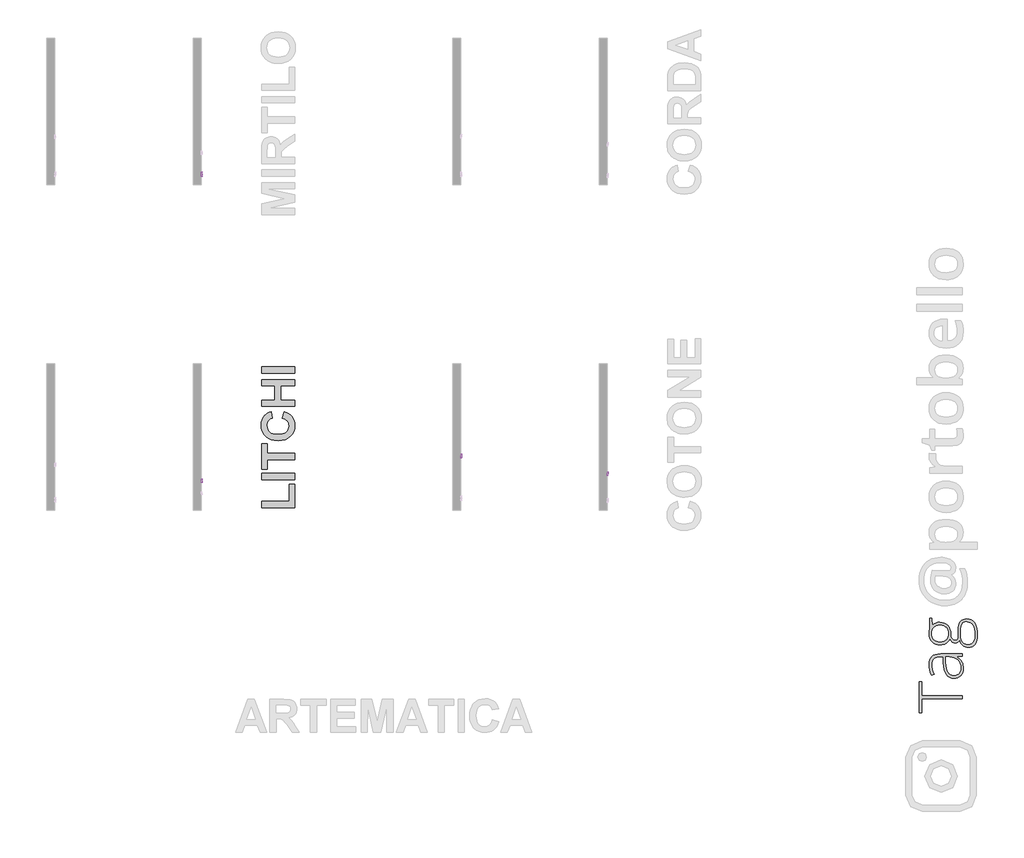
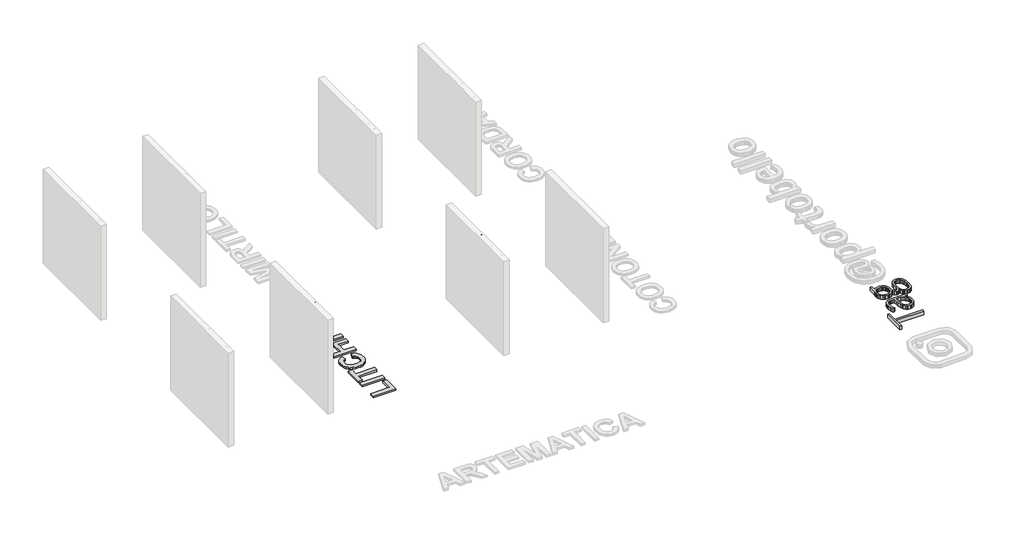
# One storey, part 4 of 9: 6 proxies.
"""IFC4 building model written with IfcOpenShell, lengths in millimetres."""

from ifc_helpers import new_model, si_unit, frame, origin, origin_with_axes, place, context, project, spatial, polyline, outline, extrude, element, save

model = new_model("IFC4")

# Units and contexts
model_context = context("Model", 3, world=origin())
ifc_project = project(units=[si_unit("LENGTHUNIT", "METRE", prefix="MILLI")], contexts=[model_context])

# Site, building, storey
site = spatial("IfcSite", under=ifc_project)
building = spatial("IfcBuilding", under=site)
storey = spatial("IfcBuildingStorey", under=building, Name="PORTOBELLO - SHOWROOM", Elevation=0.0)

# Proxies
placement = place(None, origin())
element("IfcBuildingElementProxy", 1, Name="10mm Arial", ObjectType="10mm Arial", at=placement, inside=storey, context=model_context, shape_type="SweptSolid", body=[
    extrude(outline(polyline([(-7966.9125979, 2558.2946645), (-7966.9125979, 2658.7509746), (-7929.68294, 2658.7509746), (-7914.6733546, 2657.7944814), (-7902.4719351, 2653.0978546), (-7894.5624722, 2643.3857699), (-7891.5703653, 2629.688297), (-7893.5906506, 2617.8486281), (-7899.6515065, 2607.9832593), (-7910.9853376, 2601.3245952), (-7928.8245487, 2599.1050405), (-7954.3555592, 2599.1050405), (-7954.3555592, 2558.2946645), (-7966.9125979, 2558.2946645)]), holes=[polyline([(-7954.3555592, 2611.6620792), (-7928.0887847, 2611.6620792), (-7909.5965831, 2616.2728669), (-7905.4946988, 2621.8217537), (-7904.1274041, 2629.2468386), (-7907.3525029, 2639.6456363), (-7915.8260515, 2645.3355445), (-7928.3830903, 2646.1939358), (-7954.3555592, 2646.1939358), (-7954.3555592, 2611.6620792)])]), frame((7985.6593854, 0.0, 0.0), z_axis=(1.0, 0.0, 0.0), x_axis=(0.0, 1.0, 0.0)), (0.0, 0.0, 1.0), 20.0),
    extrude(outline(polyline([(-7879.0133266, 2595.1809658), (-7876.2971312, 2612.9680603), (-7868.148545, 2625.4699168), (-7858.080841, 2631.595152), (-7846.0265743, 2633.6368971), (-7832.8349391, 2631.1506279), (-7822.2981856, 2623.6918205), (-7815.3912012, 2611.8490859), (-7813.088873, 2596.2110354), (-7817.1601004, 2573.8683356), (-7829.0181634, 2561.2254577), (-7846.0265743, 2556.7250346), (-7859.3776251, 2559.2021067), (-7869.9021158, 2566.633323), (-7876.7355239, 2578.7243779), (-7879.0133266, 2595.1809658)]), holes=[polyline([(-7866.4562878, 2595.2054913), (-7865.0031539, 2583.8410033), (-7860.6437523, 2575.7445338), (-7854.08319, 2570.8976885), (-7846.0265743, 2569.2820734), (-7838.0067468, 2570.9068855), (-7831.4584473, 2575.781322), (-7827.0990457, 2583.9850905), (-7825.6459118, 2595.5978988), (-7827.1082427, 2606.6312929), (-7831.4952355, 2614.6173979), (-7838.0527321, 2619.4642432), (-7846.0265743, 2621.0798583), (-7854.08319, 2619.4703746), (-7860.6437523, 2614.6419234), (-7865.0031539, 2606.5638479), (-7866.4562878, 2595.2054913)])]), frame((7985.6593854, 0.0, 0.0), z_axis=(1.0, 0.0, 0.0), x_axis=(0.0, 1.0, 0.0)), (0.0, 0.0, 1.0), 20.0),
    extrude(outline(polyline([(-7798.9622044, 2558.2946645), (-7798.9622044, 2632.0672672), (-7787.9747955, 2632.0672672), (-7787.9747955, 2621.1534347), (-7780.1756972, 2631.2088759), (-7772.327548, 2633.6368971), (-7759.7214583, 2629.7618734), (-7763.915313, 2618.5046843), (-7772.7444809, 2621.0798583), (-7779.8446034, 2618.6027862), (-7784.3695519, 2611.7356556), (-7786.4051656, 2597.0694267), (-7786.4051656, 2558.2946645), (-7798.9622044, 2558.2946645)])), frame((7985.6593854, 0.0, 0.0), z_axis=(1.0, 0.0, 0.0), x_axis=(0.0, 1.0, 0.0)), (0.0, 0.0, 1.0), 20.0),
    extrude(outline(polyline([(-7725.1896016, 2568.7670386), (-7723.6199718, 2557.9267825), (-7733.0132254, 2556.7250346), (-7743.5346505, 2558.8096992), (-7748.7831003, 2564.2788782), (-7750.3036792, 2578.5281742), (-7750.3036792, 2619.5102285), (-7759.7214583, 2619.5102285), (-7759.7214583, 2629.7618734), (-7759.7214583, 2632.0672672), (-7750.3036792, 2632.0672672), (-7750.3036792, 2649.9953831), (-7737.7466404, 2657.3775485), (-7737.7466404, 2632.0672672), (-7725.1896016, 2632.0672672), (-7725.1896016, 2619.5102285), (-7737.7466404, 2619.5102285), (-7737.7466404, 2578.8960562), (-7737.0844528, 2572.4213331), (-7734.9384745, 2570.128202), (-7730.6587806, 2569.2820734), (-7725.1896016, 2568.7670386)])), frame((7985.6593854, 0.0, 0.0), z_axis=(1.0, 0.0, 0.0), x_axis=(0.0, 1.0, 0.0)), (0.0, 0.0, 1.0), 20.0),
    extrude(outline(polyline([(-7715.7718226, 2595.1809658), (-7713.0556272, 2612.9680603), (-7704.907041, 2625.4699168), (-7694.839337, 2631.595152), (-7682.7850703, 2633.6368971), (-7669.5934351, 2631.1506279), (-7659.0566816, 2623.6918205), (-7652.1496972, 2611.8490859), (-7649.847369, 2596.2110354), (-7653.9185964, 2573.8683356), (-7665.7766594, 2561.2254577), (-7682.7850703, 2556.7250346), (-7696.1361211, 2559.2021067), (-7706.6606118, 2566.633323), (-7713.4940199, 2578.7243779), (-7715.7718226, 2595.1809658)]), holes=[polyline([(-7703.2147838, 2595.2054913), (-7701.7616499, 2583.8410033), (-7697.4022483, 2575.7445338), (-7690.841686, 2570.8976885), (-7682.7850703, 2569.2820734), (-7674.7652428, 2570.9068855), (-7668.2169433, 2575.781322), (-7663.8575417, 2583.9850905), (-7662.4044078, 2595.5978988), (-7663.8667387, 2606.6312929), (-7668.2537315, 2614.6173979), (-7674.8112281, 2619.4642432), (-7682.7850703, 2621.0798583), (-7690.841686, 2619.4703746), (-7697.4022483, 2614.6419234), (-7701.7616499, 2606.5638479), (-7703.2147838, 2595.2054913)])]), frame((7985.6593854, 0.0, 0.0), z_axis=(1.0, 0.0, 0.0), x_axis=(0.0, 1.0, 0.0)), (0.0, 0.0, 1.0), 20.0),
    extrude(outline(polyline([(-7623.1636616, 2558.2946645), (-7635.7207004, 2558.2946645), (-7635.7207004, 2658.7509746), (-7623.1636616, 2658.7509746), (-7623.1636616, 2621.4967912), (-7614.371282, 2630.6018706), (-7603.4451867, 2633.6368971), (-7590.8636225, 2630.9023076), (-7581.1024869, 2623.2135739), (-7575.1060103, 2611.257409), (-7572.9355066, 2596.2846118), (-7575.1826524, 2579.5214556), (-7581.92409, 2567.0502559), (-7591.81705, 2559.3063399), (-7603.5187631, 2556.7250346), (-7614.6839817, 2560.0543667), (-7623.1636616, 2570.0423628), (-7623.1636616, 2558.2946645)]), holes=[polyline([(-7623.1636616, 2595.6960006), (-7619.7300964, 2578.1357667), (-7613.15114, 2571.4954967), (-7604.5978836, 2569.2820734), (-7597.3506083, 2570.9130169), (-7591.1579281, 2575.8058474), (-7586.908891, 2583.9299082), (-7585.4925453, 2595.2545422), (-7586.850643, 2606.7447232), (-7590.9249361, 2614.7768134), (-7596.9244783, 2619.5040971), (-7604.0583234, 2621.0798583), (-7611.3055987, 2619.4489148), (-7617.4982789, 2614.5560843), (-7621.747316, 2606.5791763), (-7623.1636616, 2595.6960006)])]), frame((7985.6593854, 0.0, 0.0), z_axis=(1.0, 0.0, 0.0), x_axis=(0.0, 1.0, 0.0)), (0.0, 0.0, 1.0), 20.0),
    extrude(outline(polyline([(-7507.1582058, 2580.2694823), (-7494.8464217, 2578.6998525), (-7499.2824655, 2569.4230948), (-7506.3611282, 2562.4885192), (-7515.9229944, 2558.1659058), (-7527.8086485, 2556.7250346), (-7542.5423224, 2559.2113038), (-7553.8792192, 2566.6701112), (-7561.1081004, 2578.617079), (-7563.5177275, 2594.5678292), (-7561.083575, 2611.0550739), (-7553.7811174, 2623.3852521), (-7542.5975047, 2631.0739858), (-7528.519887, 2633.6368971), (-7514.8806621, 2631.0801172), (-7503.9821579, 2623.4097776), (-7496.8360502, 2611.1041249), (-7494.4540143, 2594.6414056), (-7494.5275907, 2591.2568912), (-7550.9606887, 2591.2568912), (-7548.7871193, 2581.8575062), (-7543.7379389, 2574.9474561), (-7536.4508097, 2570.6984191), (-7527.5633938, 2569.2820734), (-7515.2516097, 2571.9062983), (-7507.1582058, 2580.2694823)]), holes=[polyline([(-7550.9606887, 2603.81393), (-7507.011053, 2603.81393), (-7512.0387736, 2615.1937464), (-7519.3596253, 2619.6083303), (-7528.568938, 2621.0798583), (-7544.0322445, 2616.3832315), (-7548.8974839, 2610.8925927), (-7550.9606887, 2603.81393)])]), frame((7985.6593854, 0.0, 0.0), z_axis=(1.0, 0.0, 0.0), x_axis=(0.0, 1.0, 0.0)), (0.0, 0.0, 1.0), 20.0),
    extrude(outline(polyline([(8005.6593854, -7469.3399367), (8005.6593854, -7481.8969755), (7985.6593854, -7481.8969755), (7985.6593854, -7469.3399367), (8005.6593854, -7469.3399367)])), frame((0.0, 0.0, 2558.2946645), z_axis=(0.0, 0.0, 1.0), x_axis=(1.0, 0.0, 0.0)), (0.0, 0.0, 1.0), 100.4563101),
    extrude(outline(polyline([(8005.6593854, -7437.9473398), (8005.6593854, -7450.5043786), (7985.6593854, -7450.5043786), (7985.6593854, -7437.9473398), (8005.6593854, -7437.9473398)])), frame((0.0, 0.0, 2558.2946645), z_axis=(0.0, 0.0, 1.0), x_axis=(1.0, 0.0, 0.0)), (0.0, 0.0, 1.0), 100.4563101),
    extrude(outline(polyline([(-7422.2510414, 2595.1809658), (-7419.534846, 2612.9680603), (-7411.3862598, 2625.4699168), (-7401.3185558, 2631.595152), (-7389.2642891, 2633.6368971), (-7376.0726539, 2631.1506279), (-7365.5359004, 2623.6918205), (-7358.628916, 2611.8490859), (-7356.3265878, 2596.2110354), (-7360.3978152, 2573.8683356), (-7372.2558782, 2561.2254577), (-7389.2642891, 2556.7250346), (-7402.6153399, 2559.2021067), (-7413.1398306, 2566.633323), (-7419.9732387, 2578.7243779), (-7422.2510414, 2595.1809658)]), holes=[polyline([(-7409.6940026, 2595.2054913), (-7408.2408687, 2583.8410033), (-7403.8814671, 2575.7445338), (-7397.3209048, 2570.8976885), (-7389.2642891, 2569.2820734), (-7381.2444616, 2570.9068855), (-7374.6961621, 2575.781322), (-7370.3367605, 2583.9850905), (-7368.8836266, 2595.5978988), (-7370.3459575, 2606.6312929), (-7374.7329503, 2614.6173979), (-7381.2904469, 2619.4642432), (-7389.2642891, 2621.0798583), (-7397.3209048, 2619.4703746), (-7403.8814671, 2614.6419234), (-7408.2408687, 2606.5638479), (-7409.6940026, 2595.2054913)])]), frame((7985.6593854, 0.0, 0.0), z_axis=(1.0, 0.0, 0.0), x_axis=(0.0, 1.0, 0.0)), (0.0, 0.0, 1.0), 20.0),
])
element("IfcBuildingElementProxy", 2, Name="10mm Arial", ObjectType="10mm Arial", at=placement, inside=storey, context=model_context, shape_type="SweptSolid", body=[
    extrude(outline(polyline([(-8097.4526285, 2555.2578696), (-8097.4526285, 2655.7141797), (-8060.2229706, 2655.7141797), (-8045.2133852, 2654.7576865), (-8033.0119657, 2650.0610597), (-8025.1025028, 2640.3489751), (-8022.1103959, 2626.6515021), (-8024.1306812, 2614.8118332), (-8030.191537, 2604.9464644), (-8041.5253682, 2598.2878003), (-8059.3645792, 2596.0682456), (-8084.8955897, 2596.0682456), (-8084.8955897, 2555.2578696), (-8097.4526285, 2555.2578696)]), holes=[polyline([(-8084.8955897, 2608.6252844), (-8058.6288152, 2608.6252844), (-8040.1366136, 2613.236072), (-8036.0347294, 2618.7849588), (-8034.6674346, 2626.2100437), (-8037.8925335, 2636.6088415), (-8046.3660821, 2642.2987496), (-8058.9231208, 2643.157141), (-8084.8955897, 2643.157141), (-8084.8955897, 2608.6252844)])]), frame((499.3339478, 0.0, 0.0), z_axis=(1.0, 0.0, 0.0), x_axis=(0.0, 1.0, 0.0)), (0.0, 0.0, 1.0), 20.0),
    extrude(outline(polyline([(-8009.5533571, 2592.144171), (-8006.8371617, 2609.9312654), (-7998.6885755, 2622.4331219), (-7988.6208716, 2628.5583571), (-7976.5666049, 2630.6001022), (-7963.3749696, 2628.113833), (-7952.8382162, 2620.6550256), (-7945.9312317, 2608.812291), (-7943.6289036, 2593.1742406), (-7947.700131, 2570.8315407), (-7959.5581939, 2558.1886628), (-7976.5666049, 2553.6882397), (-7989.9176556, 2556.1653118), (-8000.4421463, 2563.5965281), (-8007.2755544, 2575.6875831), (-8009.5533571, 2592.144171)]), holes=[polyline([(-7996.9963183, 2592.1686964), (-7995.5431844, 2580.8042085), (-7991.1837828, 2572.7077389), (-7984.6232206, 2567.8608936), (-7976.5666049, 2566.2452785), (-7968.5467774, 2567.8700907), (-7961.9984778, 2572.7445271), (-7957.6390762, 2580.9482956), (-7956.1859423, 2592.5611039), (-7957.6482733, 2603.5944981), (-7962.035266, 2611.580603), (-7968.5927626, 2616.4274483), (-7976.5666049, 2618.0430634), (-7984.6232206, 2616.4335797), (-7991.1837828, 2611.6051285), (-7995.5431844, 2603.527053), (-7996.9963183, 2592.1686964)])]), frame((499.3339478, 0.0, 0.0), z_axis=(1.0, 0.0, 0.0), x_axis=(0.0, 1.0, 0.0)), (0.0, 0.0, 1.0), 20.0),
    extrude(outline(polyline([(-7929.5022349, 2555.2578696), (-7929.5022349, 2629.0304724), (-7918.514826, 2629.0304724), (-7918.514826, 2618.1166398), (-7910.7157277, 2628.172081), (-7902.8675785, 2630.6001022), (-7890.2614888, 2626.7250785), (-7894.4553435, 2615.4678895), (-7903.2845114, 2618.0430634), (-7910.3846339, 2615.5659913), (-7914.9095825, 2608.6988608), (-7916.9451962, 2594.0326319), (-7916.9451962, 2555.2578696), (-7929.5022349, 2555.2578696)])), frame((499.3339478, 0.0, 0.0), z_axis=(1.0, 0.0, 0.0), x_axis=(0.0, 1.0, 0.0)), (0.0, 0.0, 1.0), 20.0),
    extrude(outline(polyline([(-7855.7296322, 2565.7302437), (-7854.1600023, 2554.8899876), (-7863.5532559, 2553.6882397), (-7874.074681, 2555.7729044), (-7879.3231308, 2561.2420834), (-7880.8437097, 2575.4913793), (-7880.8437097, 2616.4734336), (-7890.2614888, 2616.4734336), (-7890.2614888, 2626.7250785), (-7890.2614888, 2629.0304724), (-7880.8437097, 2629.0304724), (-7880.8437097, 2646.9585882), (-7868.2866709, 2654.3407536), (-7868.2866709, 2629.0304724), (-7855.7296322, 2629.0304724), (-7855.7296322, 2616.4734336), (-7868.2866709, 2616.4734336), (-7868.2866709, 2575.8592613), (-7867.6244834, 2569.3845382), (-7865.478505, 2567.0914071), (-7861.1988112, 2566.2452785), (-7855.7296322, 2565.7302437)])), frame((499.3339478, 0.0, 0.0), z_axis=(1.0, 0.0, 0.0), x_axis=(0.0, 1.0, 0.0)), (0.0, 0.0, 1.0), 20.0),
    extrude(outline(polyline([(-7846.3118531, 2592.144171), (-7843.5956577, 2609.9312654), (-7835.4470715, 2622.4331219), (-7825.3793676, 2628.5583571), (-7813.3251009, 2630.6001022), (-7800.1334657, 2628.113833), (-7789.5967122, 2620.6550256), (-7782.6897277, 2608.812291), (-7780.3873996, 2593.1742406), (-7784.458627, 2570.8315407), (-7796.31669, 2558.1886628), (-7813.3251009, 2553.6882397), (-7826.6761516, 2556.1653118), (-7837.2006424, 2563.5965281), (-7844.0340504, 2575.6875831), (-7846.3118531, 2592.144171)]), holes=[polyline([(-7833.7548143, 2592.1686964), (-7832.3016804, 2580.8042085), (-7827.9422788, 2572.7077389), (-7821.3817166, 2567.8608936), (-7813.3251009, 2566.2452785), (-7805.3052734, 2567.8700907), (-7798.7569739, 2572.7445271), (-7794.3975722, 2580.9482956), (-7792.9444383, 2592.5611039), (-7794.4067693, 2603.5944981), (-7798.7937621, 2611.580603), (-7805.3512586, 2616.4274483), (-7813.3251009, 2618.0430634), (-7821.3817166, 2616.4335797), (-7827.9422788, 2611.6051285), (-7832.3016804, 2603.527053), (-7833.7548143, 2592.1686964)])]), frame((499.3339478, 0.0, 0.0), z_axis=(1.0, 0.0, 0.0), x_axis=(0.0, 1.0, 0.0)), (0.0, 0.0, 1.0), 20.0),
    extrude(outline(polyline([(-7753.7036922, 2555.2578696), (-7766.2607309, 2555.2578696), (-7766.2607309, 2655.7141797), (-7753.7036922, 2655.7141797), (-7753.7036922, 2618.4599964), (-7744.9113125, 2627.5650757), (-7733.9852172, 2630.6001022), (-7721.403653, 2627.8655127), (-7711.6425174, 2620.176779), (-7705.6460409, 2608.2206142), (-7703.4755371, 2593.247817), (-7705.722683, 2576.4846607), (-7712.4641205, 2564.0134611), (-7722.3570805, 2556.2695451), (-7734.0587936, 2553.6882397), (-7745.2240122, 2557.0175718), (-7753.7036922, 2567.005568), (-7753.7036922, 2555.2578696)]), holes=[polyline([(-7753.7036922, 2592.6592058), (-7750.2701269, 2575.0989719), (-7743.6911705, 2568.4587018), (-7735.1379142, 2566.2452785), (-7727.8906389, 2567.876222), (-7721.6979586, 2572.7690526), (-7717.4489216, 2580.8931133), (-7716.0325759, 2592.2177474), (-7717.3906736, 2603.7079283), (-7721.4649667, 2611.7400186), (-7727.4645089, 2616.4673022), (-7734.5983539, 2618.0430634), (-7741.8456292, 2616.4121199), (-7748.0383095, 2611.5192894), (-7752.2873465, 2603.5423815), (-7753.7036922, 2592.6592058)])]), frame((499.3339478, 0.0, 0.0), z_axis=(1.0, 0.0, 0.0), x_axis=(0.0, 1.0, 0.0)), (0.0, 0.0, 1.0), 20.0),
    extrude(outline(polyline([(-7637.6982364, 2577.2326874), (-7625.3864523, 2575.6630576), (-7629.822496, 2566.3862999), (-7636.9011587, 2559.4517243), (-7646.4630249, 2555.1291109), (-7658.348679, 2553.6882397), (-7673.0823529, 2556.1745089), (-7684.4192498, 2563.6333163), (-7691.648131, 2575.5802841), (-7694.057758, 2591.5310343), (-7691.6236055, 2608.0182791), (-7684.3211479, 2620.3484573), (-7673.1375352, 2628.037191), (-7659.0599176, 2630.6001022), (-7645.4206926, 2628.0433223), (-7634.5221885, 2620.3729827), (-7627.3760807, 2608.06733), (-7624.9940448, 2591.6046107), (-7625.0676212, 2588.2200964), (-7681.5007193, 2588.2200964), (-7679.3271498, 2578.8207114), (-7674.2779694, 2571.9106612), (-7666.9908402, 2567.6616242), (-7658.1034244, 2566.2452785), (-7645.7916403, 2568.8695034), (-7637.6982364, 2577.2326874)]), holes=[polyline([(-7681.5007193, 2600.7771351), (-7637.5510836, 2600.7771351), (-7642.5788042, 2612.1569515), (-7649.8996559, 2616.5715354), (-7659.1089685, 2618.0430634), (-7674.572275, 2613.3464366), (-7679.4375144, 2607.8557978), (-7681.5007193, 2600.7771351)])]), frame((499.3339478, 0.0, 0.0), z_axis=(1.0, 0.0, 0.0), x_axis=(0.0, 1.0, 0.0)), (0.0, 0.0, 1.0), 20.0),
    extrude(outline(polyline([(519.3339478, -7599.8799673), (519.3339478, -7612.437006), (499.3339478, -7612.437006), (499.3339478, -7599.8799673), (519.3339478, -7599.8799673)])), frame((0.0, 0.0, 2555.2578696), z_axis=(0.0, 0.0, 1.0), x_axis=(1.0, 0.0, 0.0)), (0.0, 0.0, 1.0), 100.4563101),
    extrude(outline(polyline([(519.3339478, -7568.4873703), (519.3339478, -7581.0444091), (499.3339478, -7581.0444091), (499.3339478, -7568.4873703), (519.3339478, -7568.4873703)])), frame((0.0, 0.0, 2555.2578696), z_axis=(0.0, 0.0, 1.0), x_axis=(1.0, 0.0, 0.0)), (0.0, 0.0, 1.0), 100.4563101),
    extrude(outline(polyline([(-7552.7910719, 2592.144171), (-7550.0748765, 2609.9312654), (-7541.9262903, 2622.4331219), (-7531.8585864, 2628.5583571), (-7519.8043196, 2630.6001022), (-7506.6126844, 2628.113833), (-7496.075931, 2620.6550256), (-7489.1689465, 2608.812291), (-7486.8666183, 2593.1742406), (-7490.9378458, 2570.8315407), (-7502.7959087, 2558.1886628), (-7519.8043196, 2553.6882397), (-7533.1553704, 2556.1653118), (-7543.6798611, 2563.5965281), (-7550.5132692, 2575.6875831), (-7552.7910719, 2592.144171)]), holes=[polyline([(-7540.2340331, 2592.1686964), (-7538.7808992, 2580.8042085), (-7534.4214976, 2572.7077389), (-7527.8609353, 2567.8608936), (-7519.8043196, 2566.2452785), (-7511.7844922, 2567.8700907), (-7505.2361926, 2572.7445271), (-7500.876791, 2580.9482956), (-7499.4236571, 2592.5611039), (-7500.885988, 2603.5944981), (-7505.2729808, 2611.580603), (-7511.8304774, 2616.4274483), (-7519.8043196, 2618.0430634), (-7527.8609353, 2616.4335797), (-7534.4214976, 2611.6051285), (-7538.7808992, 2603.527053), (-7540.2340331, 2592.1686964)])]), frame((499.3339478, 0.0, 0.0), z_axis=(1.0, 0.0, 0.0), x_axis=(0.0, 1.0, 0.0)), (0.0, 0.0, 1.0), 20.0),
])
element("IfcBuildingElementProxy", 3, Name="10mm Arial", ObjectType="10mm Arial", at=placement, inside=storey, context=model_context, shape_type="SweptSolid", body=[
    extrude(outline(polyline([(-2456.1613863, 2558.4095218), (-2456.1613863, 2658.8658319), (-2434.5544504, 2658.8658319), (-2414.0021096, 2588.0608106), (-2409.8573058, 2573.2719544), (-2405.3691455, 2589.2870839), (-2385.1601612, 2658.8658319), (-2363.5532254, 2658.8658319), (-2363.5532254, 2558.4095218), (-2376.1102641, 2558.4095218), (-2376.1102641, 2646.3087932), (-2401.346969, 2558.4095218), (-2418.3676426, 2558.4095218), (-2443.6043475, 2646.3087932), (-2443.6043475, 2558.4095218), (-2456.1613863, 2558.4095218)])), frame((499.3339478, 0.0, 0.0), z_axis=(1.0, 0.0, 0.0), x_axis=(0.0, 1.0, 0.0)), (0.0, 0.0, 1.0), 20.0),
    extrude(outline(polyline([(519.3339478, -2330.5909986), (519.3339478, -2343.1480374), (499.3339478, -2343.1480374), (499.3339478, -2330.5909986), (519.3339478, -2330.5909986)])), frame((0.0, 0.0, 2646.3087932), z_axis=(0.0, 0.0, 1.0), x_axis=(1.0, 0.0, 0.0)), (0.0, 0.0, 1.0), 12.5570388),
    extrude(outline(polyline([(519.3339478, -2330.5909986), (519.3339478, -2343.1480374), (499.3339478, -2343.1480374), (499.3339478, -2330.5909986), (519.3339478, -2330.5909986)])), frame((0.0, 0.0, 2558.4095218), z_axis=(0.0, 0.0, 1.0), x_axis=(1.0, 0.0, 0.0)), (0.0, 0.0, 1.0), 73.7726028),
    extrude(outline(polyline([(-2311.7554404, 2558.4095218), (-2311.7554404, 2632.1821246), (-2300.7680315, 2632.1821246), (-2300.7680315, 2621.268292), (-2292.9689332, 2631.3237332), (-2285.120784, 2633.7517544), (-2272.5146943, 2629.8767307), (-2276.708549, 2618.6195417), (-2285.5377169, 2621.1947156), (-2292.6378394, 2618.7176435), (-2297.162788, 2611.850513), (-2299.1984017, 2597.1842841), (-2299.1984017, 2558.4095218), (-2311.7554404, 2558.4095218)])), frame((499.3339478, 0.0, 0.0), z_axis=(1.0, 0.0, 0.0), x_axis=(0.0, 1.0, 0.0)), (0.0, 0.0, 1.0), 20.0),
    extrude(outline(polyline([(-2237.9828377, 2568.8818959), (-2236.4132078, 2558.0416398), (-2245.8064614, 2556.8398919), (-2256.3278865, 2558.9245566), (-2261.5763363, 2564.3937356), (-2263.0969152, 2578.6430315), (-2263.0969152, 2619.6250858), (-2272.5146943, 2619.6250858), (-2272.5146943, 2629.8767307), (-2272.5146943, 2632.1821246), (-2263.0969152, 2632.1821246), (-2263.0969152, 2650.1102405), (-2250.5398764, 2657.4924058), (-2250.5398764, 2632.1821246), (-2237.9828377, 2632.1821246), (-2237.9828377, 2619.6250858), (-2250.5398764, 2619.6250858), (-2250.5398764, 2579.0109135), (-2249.8776888, 2572.5361904), (-2247.7317105, 2570.2430593), (-2243.4520167, 2569.3969307), (-2237.9828377, 2568.8818959)])), frame((499.3339478, 0.0, 0.0), z_axis=(1.0, 0.0, 0.0), x_axis=(0.0, 1.0, 0.0)), (0.0, 0.0, 1.0), 20.0),
    extrude(outline(polyline([(519.3339478, -2212.8687601), (519.3339478, -2225.4257989), (499.3339478, -2225.4257989), (499.3339478, -2212.8687601), (519.3339478, -2212.8687601)])), frame((0.0, 0.0, 2646.3087932), z_axis=(0.0, 0.0, 1.0), x_axis=(1.0, 0.0, 0.0)), (0.0, 0.0, 1.0), 12.5570388),
    extrude(outline(polyline([(519.3339478, -2212.8687601), (519.3339478, -2225.4257989), (499.3339478, -2225.4257989), (499.3339478, -2212.8687601), (519.3339478, -2212.8687601)])), frame((0.0, 0.0, 2558.4095218), z_axis=(0.0, 0.0, 1.0), x_axis=(1.0, 0.0, 0.0)), (0.0, 0.0, 1.0), 73.7726028),
    extrude(outline(polyline([(519.3339478, -2181.4761632), (519.3339478, -2194.033202), (499.3339478, -2194.033202), (499.3339478, -2181.4761632), (519.3339478, -2181.4761632)])), frame((0.0, 0.0, 2558.4095218), z_axis=(0.0, 0.0, 1.0), x_axis=(1.0, 0.0, 0.0)), (0.0, 0.0, 1.0), 100.4563101),
    extrude(outline(polyline([(-2165.7798647, 2595.2958232), (-2163.0636693, 2613.0829176), (-2154.9150832, 2625.5847741), (-2144.8473792, 2631.7100093), (-2132.7931125, 2633.7517544), (-2119.6014773, 2631.2654852), (-2109.0647238, 2623.8066778), (-2102.1577394, 2611.9639432), (-2099.8554112, 2596.3258928), (-2103.9266386, 2573.9831929), (-2115.7847016, 2561.340315), (-2132.7931125, 2556.8398919), (-2146.1441633, 2559.316964), (-2156.668654, 2566.7481803), (-2163.5020621, 2578.8392353), (-2165.7798647, 2595.2958232)]), holes=[polyline([(-2153.222826, 2595.3203486), (-2151.7696921, 2583.9558607), (-2147.4102905, 2575.8593911), (-2140.8497282, 2571.0125458), (-2132.7931125, 2569.3969307), (-2124.773285, 2571.0217429), (-2118.2249855, 2575.8961793), (-2113.8655839, 2584.0999478), (-2112.41245, 2595.7127561), (-2113.8747809, 2606.7461503), (-2118.2617737, 2614.7322552), (-2124.8192703, 2619.5791005), (-2132.7931125, 2621.1947156), (-2140.8497282, 2619.5852319), (-2147.4102905, 2614.7567807), (-2151.7696921, 2606.6787052), (-2153.222826, 2595.3203486)])]), frame((499.3339478, 0.0, 0.0), z_axis=(1.0, 0.0, 0.0), x_axis=(0.0, 1.0, 0.0)), (0.0, 0.0, 1.0), 20.0),
])
element("IfcBuildingElementProxy", 4, Name="10mm Arial", ObjectType="10mm Arial", at=placement, inside=storey, context=model_context, shape_type="SweptSolid", body=[
    extrude(outline(polyline([(-7639.7375496, 2542.7395478), (-7639.7375496, 2643.195858), (-7602.5078917, 2643.195858), (-7587.4983063, 2642.2393648), (-7575.2968868, 2637.542738), (-7567.3874239, 2627.8306533), (-7564.395317, 2614.1331804), (-7566.4156023, 2602.2935115), (-7572.4764581, 2592.4281426), (-7583.8102893, 2585.7694785), (-7601.6495004, 2583.5499238), (-7627.1805108, 2583.5499238), (-7627.1805108, 2542.7395478), (-7639.7375496, 2542.7395478)]), holes=[polyline([(-7627.1805108, 2596.1069626), (-7600.9137364, 2596.1069626), (-7582.4215347, 2600.7177503), (-7578.3196505, 2606.266637), (-7576.9523558, 2613.691722), (-7580.1774546, 2624.0905197), (-7588.6510032, 2629.7804279), (-7601.208042, 2630.6388192), (-7627.1805108, 2630.6388192), (-7627.1805108, 2596.1069626)])]), frame((5285.6593854, 0.0, 0.0), z_axis=(1.0, 0.0, 0.0), x_axis=(0.0, 1.0, 0.0)), (0.0, 0.0, 1.0), 20.0),
    extrude(outline(polyline([(-7551.8382782, 2579.6258492), (-7549.1220828, 2597.4129437), (-7540.9734966, 2609.9148001), (-7530.9057927, 2616.0400354), (-7518.851526, 2618.0817804), (-7505.6598908, 2615.5955113), (-7495.1231373, 2608.1367038), (-7488.2161528, 2596.2939693), (-7485.9138247, 2580.6559188), (-7489.9850521, 2558.313219), (-7501.8431151, 2545.6703411), (-7518.851526, 2541.169918), (-7532.2025767, 2543.6469901), (-7542.7270675, 2551.0782064), (-7549.5604755, 2563.1692613), (-7551.8382782, 2579.6258492)]), holes=[polyline([(-7539.2812394, 2579.6503747), (-7537.8281056, 2568.2858867), (-7533.4687039, 2560.1894171), (-7526.9081417, 2555.3425718), (-7518.851526, 2553.7269568), (-7510.8316985, 2555.3517689), (-7504.283399, 2560.2262053), (-7499.9239973, 2568.4299738), (-7498.4708634, 2580.0427821), (-7499.9331944, 2591.0761763), (-7504.3201872, 2599.0622813), (-7510.8776837, 2603.9091266), (-7518.851526, 2605.5247417), (-7526.9081417, 2603.9152579), (-7533.4687039, 2599.0868068), (-7537.8281056, 2591.0087313), (-7539.2812394, 2579.6503747)])]), frame((5285.6593854, 0.0, 0.0), z_axis=(1.0, 0.0, 0.0), x_axis=(0.0, 1.0, 0.0)), (0.0, 0.0, 1.0), 20.0),
    extrude(outline(polyline([(-7471.7871561, 2542.7395478), (-7471.7871561, 2616.5121506), (-7460.7997471, 2616.5121506), (-7460.7997471, 2605.5983181), (-7453.0006488, 2615.6537593), (-7445.1524996, 2618.0817804), (-7432.5464099, 2614.2067568), (-7436.7402647, 2602.9495677), (-7445.5694325, 2605.5247417), (-7452.669555, 2603.0476696), (-7457.1945036, 2596.180539), (-7459.2301173, 2581.5143101), (-7459.2301173, 2542.7395478), (-7471.7871561, 2542.7395478)])), frame((5285.6593854, 0.0, 0.0), z_axis=(1.0, 0.0, 0.0), x_axis=(0.0, 1.0, 0.0)), (0.0, 0.0, 1.0), 20.0),
    extrude(outline(polyline([(-7398.0145533, 2553.211922), (-7396.4449235, 2542.3716658), (-7405.8381771, 2541.169918), (-7416.3596021, 2543.2545826), (-7421.6080519, 2548.7237616), (-7423.1286308, 2562.9730576), (-7423.1286308, 2603.9551118), (-7432.5464099, 2603.9551118), (-7432.5464099, 2614.2067568), (-7432.5464099, 2616.5121506), (-7423.1286308, 2616.5121506), (-7423.1286308, 2634.4402665), (-7410.5715921, 2641.8224319), (-7410.5715921, 2616.5121506), (-7398.0145533, 2616.5121506), (-7398.0145533, 2603.9551118), (-7410.5715921, 2603.9551118), (-7410.5715921, 2563.3409396), (-7409.9094045, 2556.8662164), (-7407.7634262, 2554.5730853), (-7403.4837323, 2553.7269568), (-7398.0145533, 2553.211922)])), frame((5285.6593854, 0.0, 0.0), z_axis=(1.0, 0.0, 0.0), x_axis=(0.0, 1.0, 0.0)), (0.0, 0.0, 1.0), 20.0),
    extrude(outline(polyline([(-7388.5967742, 2579.6258492), (-7385.8805788, 2597.4129437), (-7377.7319926, 2609.9148001), (-7367.6642887, 2616.0400354), (-7355.610022, 2618.0817804), (-7342.4183868, 2615.5955113), (-7331.8816333, 2608.1367038), (-7324.9746488, 2596.2939693), (-7322.6723207, 2580.6559188), (-7326.7435481, 2558.313219), (-7338.6016111, 2545.6703411), (-7355.610022, 2541.169918), (-7368.9610727, 2543.6469901), (-7379.4855635, 2551.0782064), (-7386.3189715, 2563.1692613), (-7388.5967742, 2579.6258492)]), holes=[polyline([(-7376.0397355, 2579.6503747), (-7374.5866016, 2568.2858867), (-7370.2271999, 2560.1894171), (-7363.6666377, 2555.3425718), (-7355.610022, 2553.7269568), (-7347.5901945, 2555.3517689), (-7341.041895, 2560.2262053), (-7336.6824933, 2568.4299738), (-7335.2293595, 2580.0427821), (-7336.6916904, 2591.0761763), (-7341.0786832, 2599.0622813), (-7347.6361797, 2603.9091266), (-7355.610022, 2605.5247417), (-7363.6666377, 2603.9152579), (-7370.2271999, 2599.0868068), (-7374.5866016, 2591.0087313), (-7376.0397355, 2579.6503747)])]), frame((5285.6593854, 0.0, 0.0), z_axis=(1.0, 0.0, 0.0), x_axis=(0.0, 1.0, 0.0)), (0.0, 0.0, 1.0), 20.0),
    extrude(outline(polyline([(-7295.9886133, 2542.7395478), (-7308.5456521, 2542.7395478), (-7308.5456521, 2643.195858), (-7295.9886133, 2643.195858), (-7295.9886133, 2605.9416746), (-7287.1962336, 2615.046754), (-7276.2701384, 2618.0817804), (-7263.6885741, 2615.3471909), (-7253.9274385, 2607.6584572), (-7247.930962, 2595.7022924), (-7245.7604582, 2580.7294952), (-7248.0076041, 2563.966339), (-7254.7490416, 2551.4951393), (-7264.6420016, 2543.7512233), (-7276.3437148, 2541.169918), (-7287.5089333, 2544.49925), (-7295.9886133, 2554.4872462), (-7295.9886133, 2542.7395478)]), holes=[polyline([(-7295.9886133, 2580.140884), (-7292.555048, 2562.5806501), (-7285.9760917, 2555.9403801), (-7277.4228353, 2553.7269568), (-7270.17556, 2555.3579003), (-7263.9828797, 2560.2507308), (-7259.7338427, 2568.3747915), (-7258.317497, 2579.6994256), (-7259.6755947, 2591.1896066), (-7263.7498878, 2599.2216968), (-7269.74943, 2603.9489805), (-7276.883275, 2605.5247417), (-7284.1305503, 2603.8937982), (-7290.3232306, 2599.0009676), (-7294.5722676, 2591.0240597), (-7295.9886133, 2580.140884)])]), frame((5285.6593854, 0.0, 0.0), z_axis=(1.0, 0.0, 0.0), x_axis=(0.0, 1.0, 0.0)), (0.0, 0.0, 1.0), 20.0),
    extrude(outline(polyline([(-7179.9831575, 2564.7143657), (-7167.6713734, 2563.1447358), (-7172.1074171, 2553.8679782), (-7179.1860798, 2546.9334026), (-7188.747946, 2542.6107891), (-7200.6336002, 2541.169918), (-7215.3672741, 2543.6561871), (-7226.7041709, 2551.1149946), (-7233.9330521, 2563.0619624), (-7236.3426792, 2579.0127126), (-7233.9085266, 2595.4999573), (-7226.606069, 2607.8301355), (-7215.4224564, 2615.5188692), (-7201.3448387, 2618.0817804), (-7187.7056137, 2615.5250006), (-7176.8071096, 2607.854661), (-7169.6610018, 2595.5490082), (-7167.2789659, 2579.086289), (-7167.3525423, 2575.7017746), (-7223.7856404, 2575.7017746), (-7221.6120709, 2566.3023896), (-7216.5628905, 2559.3923395), (-7209.2757614, 2555.1433024), (-7200.3883455, 2553.7269568), (-7188.0765614, 2556.3511817), (-7179.9831575, 2564.7143657)]), holes=[polyline([(-7223.7856404, 2588.2588134), (-7179.8360047, 2588.2588134), (-7184.8637253, 2599.6386297), (-7192.184577, 2604.0532137), (-7201.3938896, 2605.5247417), (-7216.8571961, 2600.8281149), (-7221.7224355, 2595.3374761), (-7223.7856404, 2588.2588134)])]), frame((5285.6593854, 0.0, 0.0), z_axis=(1.0, 0.0, 0.0), x_axis=(0.0, 1.0, 0.0)), (0.0, 0.0, 1.0), 20.0),
    extrude(outline(polyline([(5305.6593854, -7142.1648884), (5305.6593854, -7154.7219272), (5285.6593854, -7154.7219272), (5285.6593854, -7142.1648884), (5305.6593854, -7142.1648884)])), frame((0.0, 0.0, 2542.7395478), z_axis=(0.0, 0.0, 1.0), x_axis=(1.0, 0.0, 0.0)), (0.0, 0.0, 1.0), 100.4563101),
    extrude(outline(polyline([(5305.6593854, -7110.7722915), (5305.6593854, -7123.3293302), (5285.6593854, -7123.3293302), (5285.6593854, -7110.7722915), (5305.6593854, -7110.7722915)])), frame((0.0, 0.0, 2542.7395478), z_axis=(0.0, 0.0, 1.0), x_axis=(1.0, 0.0, 0.0)), (0.0, 0.0, 1.0), 100.4563101),
    extrude(outline(polyline([(-7095.075993, 2579.6258492), (-7092.3597976, 2597.4129437), (-7084.2112114, 2609.9148001), (-7074.1435075, 2616.0400354), (-7062.0892408, 2618.0817804), (-7048.8976056, 2615.5955113), (-7038.3608521, 2608.1367038), (-7031.4538676, 2596.2939693), (-7029.1515395, 2580.6559188), (-7033.2227669, 2558.313219), (-7045.0808299, 2545.6703411), (-7062.0892408, 2541.169918), (-7075.4402915, 2543.6469901), (-7085.9647823, 2551.0782064), (-7092.7981903, 2563.1692613), (-7095.075993, 2579.6258492)]), holes=[polyline([(-7082.5189542, 2579.6503747), (-7081.0658204, 2568.2858867), (-7076.7064187, 2560.1894171), (-7070.1458565, 2555.3425718), (-7062.0892408, 2553.7269568), (-7054.0694133, 2555.3517689), (-7047.5211138, 2560.2262053), (-7043.1617121, 2568.4299738), (-7041.7085782, 2580.0427821), (-7043.1709092, 2591.0761763), (-7047.557902, 2599.0622813), (-7054.1153985, 2603.9091266), (-7062.0892408, 2605.5247417), (-7070.1458565, 2603.9152579), (-7076.7064187, 2599.0868068), (-7081.0658204, 2591.0087313), (-7082.5189542, 2579.6503747)])]), frame((5285.6593854, 0.0, 0.0), z_axis=(1.0, 0.0, 0.0), x_axis=(0.0, 1.0, 0.0)), (0.0, 0.0, 1.0), 20.0),
])
element("IfcBuildingElementProxy", 5, Name="600mm Arial", ObjectType="600mm Arial", at=placement, inside=storey, context=model_context, shape_type="SweptSolid", body=[
    extrude(outline(polyline([(2226.4595648, -8553.3523318), (1614.3039248, -8553.3523318), (1614.3039248, -8436.7512575), (2119.5752467, -8436.7512575), (2119.5752467, -8125.8150595), (2226.4595648, -8125.8150595), (2226.4595648, -8553.3523318)])), origin_with_axes(), (0.0, 0.0, 1.0), 50.0),
    extrude(outline(polyline([(2226.4595648, -8038.3642537), (1614.3039248, -8038.3642537), (1614.3039248, -7921.7631795), (2226.4595648, -7921.7631795), (2226.4595648, -8038.3642537)])), origin_with_axes(), (0.0, 0.0, 1.0), 50.0),
    extrude(outline(polyline([(2226.4595648, -7669.1275185), (1721.1882429, -7669.1275185), (1721.1882429, -7844.0291299), (1614.3039248, -7844.0291299), (1614.3039248, -7377.6248328), (1721.1882429, -7377.6248328), (1721.1882429, -7552.5264442), (2226.4595648, -7552.5264442), (2226.4595648, -7669.1275185)])), origin_with_axes(), (0.0, 0.0, 1.0), 50.0),
    extrude(outline(polyline([(1993.2574163, -6901.5037795), (2032.124441, -6784.9027052), (2078.2268433, -6801.0055717), (2118.0000694, -6821.6821456), (2151.4441194, -6846.9324271), (2178.5589933, -6876.7564161), (2199.5154933, -6911.0307553), (2214.4844219, -6949.6320875), (2223.4657791, -6992.5604127), (2226.4595648, -7039.8157309), (2221.3449832, -7098.2016692), (2206.0012383, -7151.1409102), (2180.4283302, -7198.6334539), (2144.6262588, -7240.6793003), (2099.9519539, -7275.0864858), (2047.7623455, -7299.6630468), (1988.0574334, -7314.4089835), (1920.8372178, -7319.3242957), (1849.9542405, -7314.3662829), (1787.4595566, -7299.4922445), (1733.3531662, -7274.7021805), (1709.445581, -7258.5886389), (1687.6350692, -7239.9960908), (1651.3016127, -7197.2053564), (1625.3491438, -7148.161358), (1609.7776624, -7092.8640956), (1604.5871686, -7031.3135692), (1608.8667165, -6977.4918494), (1621.7053602, -6928.9839806), (1643.1030997, -6885.7899629), (1673.0599349, -6847.9097961), (1695.4635105, -6828.2011022), (1722.2889692, -6811.1303557), (1753.5363111, -6796.6975567), (1789.2055363, -6784.9027052), (1808.6390486, -6901.5037795), (1787.2840098, -6908.8530253), (1768.3107148, -6919.3621146), (1751.7191639, -6933.0310475), (1737.5093568, -6949.859824), (1726.1177887, -6969.2601248), (1717.9809543, -6990.6436307), (1713.0988536, -7014.0103418), (1711.4714867, -7039.360258), (1714.4273164, -7074.0094134), (1723.2948053, -7105.2330328), (1738.0739535, -7133.0311161), (1758.764761, -7157.4036632), (1786.0694152, -7177.2309699), (1820.6901037, -7191.3933319), (1862.6268263, -7199.890749), (1911.8795832, -7202.7232214), (1964.0122575, -7199.9761502), (2008.060287, -7191.7349366), (2044.0236717, -7177.9995805), (2071.9024117, -7158.7700821), (2092.759277, -7135.1376785), (2107.657038, -7108.193607), (2116.5956945, -7077.9378676), (2119.5752467, -7044.3704604), (2117.6726983, -7019.3811269), (2111.9650529, -6996.1852182), (2102.4523106, -6974.7827343), (2089.1344715, -6955.173675), (2071.7268648, -6937.7850464), (2049.94482, -6923.0438543), (2023.7883372, -6910.9500986), (1993.2574163, -6901.5037795)])), origin_with_axes(), (0.0, 0.0, 1.0), 50.0),
    extrude(outline(polyline([(2226.4595648, -6687.7351433), (1614.3039248, -6687.7351433), (1614.3039248, -6571.134069), (1857.2228296, -6571.134069), (1857.2228296, -6308.7816519), (1614.3039248, -6308.7816519), (1614.3039248, -6192.1805776), (2226.4595648, -6192.1805776), (2226.4595648, -6308.7816519), (1964.1071477, -6308.7816519), (1964.1071477, -6571.134069), (2226.4595648, -6571.134069), (2226.4595648, -6687.7351433)])), origin_with_axes(), (0.0, 0.0, 1.0), 50.0),
    extrude(outline(polyline([(2226.4595648, -6075.5795033), (1614.3039248, -6075.5795033), (1614.3039248, -5958.9784291), (2226.4595648, -5958.9784291), (2226.4595648, -6075.5795033)])), origin_with_axes(), (0.0, 0.0, 1.0), 50.0),
])
element("IfcBuildingElementProxy", 6, Name="80mm OpenSans Light", ObjectType="80mm OpenSans Light", at=placement, inside=storey, context=model_context, shape_type="SweptSolid", body=[
    extrude(outline(polyline([(14534.0863285, -12019.7446899), (14534.0863285, -12076.2308367), (13780.2967278, -12076.2308367), (13780.2967278, -12334.8652787), (13734.1463441, -12334.8652787), (13734.1463441, -11761.3506145), (13780.2967278, -11761.3506145), (13780.2967278, -12019.7446899), (14534.0863285, -12019.7446899)])), origin_with_axes(), (0.0, 0.0, 1.0), 100.0),
    extrude(outline(polyline([(14534.0863285, -11289.7513809), (14438.4204289, -11303.4522761), (14438.4204289, -11307.7788746), (14466.5958991, -11330.6512571), (14490.3095647, -11353.8391208), (14509.5614256, -11377.3424656), (14524.3514819, -11401.1612916), (14535.3407415, -11426.2270192), (14543.1902127, -11453.471069), (14547.8998955, -11482.8934409), (14549.4697897, -11514.4941349), (14546.5778793, -11556.3780118), (14537.9021479, -11593.3343738), (14523.4425957, -11625.3632208), (14503.1992227, -11652.4645529), (14477.8480598, -11674.0224307), (14448.065138, -11689.4209149), (14413.8504573, -11698.6600054), (14375.2040179, -11701.7397022), (14332.9821255, -11697.1502028), (14295.7328167, -11683.3817045), (14263.4560917, -11660.4342074), (14236.1519503, -11628.3077114), (14214.256057, -11587.4979727), (14198.2040762, -11538.5007473), (14187.9960079, -11481.3160352), (14183.6318521, -11415.9438364), (14180.26672, -11301.2889769), (14139.8851342, -11301.2889769), (14099.2631819, -11303.467299), (14063.9292944, -11310.0022654), (14033.8834717, -11320.8938762), (14009.1257137, -11336.1421312), (13989.7762039, -11356.2427866), (13975.9551254, -11381.6915985), (13967.6624784, -11412.4885668), (13964.8982627, -11448.6336915), (13967.7826617, -11490.8330495), (13976.4358586, -11533.7835531), (13990.8578535, -11577.4852023), (14011.0486464, -11621.937997), (13963.9367963, -11642.3691565), (13944.166645, -11593.0038697), (13930.0451083, -11543.9390412), (13921.5721863, -11495.1746709), (13918.747879, -11446.7107589), (13921.9853164, -11400.32752), (13931.6976286, -11360.2088352), (13947.8848156, -11326.3547045), (13970.5468773, -11298.7651277), (14000.0593867, -11277.3649905), (14036.7979165, -11262.0791782), (14080.7624666, -11252.9076908), (14131.953037, -11249.8505283), (14534.0863285, -11249.8505283), (14534.0863285, -11289.7513809)]), holes=[polyline([(14503.319406, -11511.609736), (14499.7514645, -11465.8499479), (14489.0476402, -11425.1979498), (14471.2079329, -11389.6537415), (14446.2323428, -11359.2173231), (14414.9170841, -11334.820115), (14378.058371, -11317.3935378), (14335.6562037, -11306.9375915), (14287.7105821, -11303.4522761), (14226.4171037, -11303.4522761), (14230.9840688, -11408.9732055), (14235.8890493, -11467.9832014), (14244.3544599, -11517.8592671), (14256.3803004, -11558.6014027), (14271.966571, -11590.2096082), (14291.7442338, -11613.8706936), (14316.3442511, -11630.7714689), (14345.766623, -11640.9119341), (14380.0113495, -11644.2920891), (14407.5934148, -11642.1212784), (14431.9305312, -11635.6088464), (14453.0226987, -11624.7547929), (14470.8699174, -11609.5591181), (14485.0665687, -11590.4124175), (14495.2070338, -11567.705287), (14501.2913129, -11541.4377265), (14503.319406, -11511.609736)])]), origin_with_axes(), (0.0, 0.0, 1.0), 100.0),
    extrude(outline(polyline([(13934.1313402, -10593.6497599), (13972.5899933, -10593.6497599), (13980.2817239, -10716.9578164), (14012.4307542, -10695.2947782), (14046.1421673, -10679.8211795), (14081.4159632, -10670.5370203), (14118.2521419, -10667.4423006), (14160.8420956, -10671.0027306), (14199.1955883, -10681.6840205), (14233.31262, -10699.4861705), (14263.1931907, -10724.4091805), (14287.4852384, -10755.341355), (14304.836701, -10791.1709986), (14315.2475786, -10831.8981113), (14318.7178711, -10877.5226931), (14315.352739, -10934.0088398), (14333.650645, -10962.4021423), (14354.8930417, -10983.1638058), (14378.2987376, -10995.8731888), (14403.0865414, -11000.1096498), (14427.4236578, -10994.7314476), (14436.7528857, -10988.0086947), (14444.1892268, -10978.5968407), (14453.9240734, -10949.7828967), (14457.1690223, -10906.3666829), (14457.1690223, -10802.5283196), (14459.6327797, -10757.1516158), (14467.0240521, -10717.4085038), (14479.3428394, -10683.2989835), (14496.5891417, -10654.823055), (14518.6577985, -10632.371314), (14545.4436494, -10616.3343561), (14576.9466946, -10606.7121814), (14613.1669339, -10603.5047898), (14657.8225379, -10608.2670527), (14697.0849168, -10622.5538414), (14730.9540704, -10646.3651559), (14759.4299989, -10679.7009962), (14781.9869003, -10721.8252397), (14798.0989728, -10772.0017637), (14807.7662162, -10830.2305681), (14810.9886307, -10896.5116531), (14808.2319265, -10949.3547438), (14799.9618138, -10995.8731888), (14786.1782926, -11036.0669882), (14766.881363, -11069.9361418), (14742.6569184, -11096.8046188), (14714.0908524, -11115.9963881), (14681.1831651, -11127.5114496), (14643.9338563, -11131.3498035), (14613.9030565, -11128.9761835), (14586.5463349, -11121.8553235), (14561.8636916, -11109.9872235), (14539.8551264, -11093.3718836), (14520.8210977, -11072.6853346), (14505.0620637, -11048.6036077), (14492.5780244, -11021.1267028), (14483.3689797, -10990.25462), (14469.9685427, -11014.4715531), (14451.8809575, -11033.2802381), (14429.9475069, -11045.3586588), (14405.009474, -11049.3847991), (14377.0217901, -11044.6225362), (14350.7467182, -11030.3357475), (14326.1842581, -11006.524433), (14303.3344099, -10973.1885927), (14290.5799581, -10997.8186558), (14274.670695, -11019.5492971), (14255.6066205, -11038.3805165), (14233.3877346, -11054.312314), (14208.7201141, -11066.9841398), (14182.3098359, -11076.0354439), (14154.1569, -11081.4662263), (14124.2613064, -11083.2764871), (14080.0488783, -11079.746103), (14040.433461, -11069.1549505), (14005.4150546, -11051.5030296), (13974.9936591, -11026.7903404), (13950.3861303, -10996.0684867), (13932.809324, -10960.3890722), (13922.2632402, -10919.7520969), (13918.747879, -10874.1575609), (13922.5937443, -10822.2984709), (13934.1313402, -10783.5393596), (13934.1313402, -10593.6497599)]), holes=[polyline([(14637.2035921, -11073.9021904), (14667.1179643, -11071.0666159), (14693.0437536, -11062.5598924), (14714.9809599, -11048.3820198), (14732.9295833, -11028.5329981), (14746.8896237, -11003.0128274), (14756.8610811, -10971.8215077), (14762.8439555, -10934.959039), (14764.838247, -10892.4254212), (14762.4082911, -10837.7232452), (14755.1184234, -10790.3146926), (14742.9686438, -10750.1997635), (14725.9589524, -10717.3784579), (14704.0893492, -10691.8507758), (14677.3598341, -10673.6167171), (14645.7704073, -10662.6762819), (14609.3210686, -10659.0294702), (14583.3539663, -10661.3129527), (14561.2177064, -10668.1634003), (14542.9122889, -10679.5808129), (14528.4377138, -10695.5651906), (14517.4484541, -10716.6573582), (14509.5989829, -10743.3981404), (14504.8893002, -10775.7875373), (14503.319406, -10813.8255489), (14503.319406, -10910.933648), (14505.4113464, -10949.1294001), (14511.6871676, -10982.2323853), (14522.1468696, -11010.2426035), (14536.7904525, -11033.1600548), (14555.6179162, -11050.9847392), (14578.6292606, -11063.7166565), (14605.8244859, -11071.355807), (14637.2035921, -11073.9021904)]), polyline([(14123.5402067, -11028.2325399), (14157.0037417, -11025.6260648), (14186.4862053, -11017.8066394), (14211.9875973, -11004.7742638), (14233.5079179, -10986.5289379), (14250.5964795, -10963.9269678), (14262.802595, -10937.8246593), (14270.1262643, -10908.2220125), (14272.5674874, -10875.1190273), (14270.1412872, -10840.2658729), (14262.8626867, -10809.739317), (14250.7316858, -10783.5393596), (14233.7482845, -10761.6660006), (14212.1678723, -10744.4196984), (14186.2458387, -10732.1009111), (14155.9821838, -10724.7096387), (14121.3769074, -10722.2458812), (14084.6534006, -10724.7847532), (14052.8423858, -10732.4013693), (14025.943863, -10745.0957294), (14003.9578322, -10762.8678336), (13986.8692705, -10785.1918798), (13974.6631551, -10811.5420664), (13967.3394858, -10841.9183932), (13964.8982627, -10876.3208602), (13967.5197607, -10909.7768838), (13975.3842548, -10939.4771796), (13988.491745, -10965.4217475), (14006.8422312, -10987.6105876), (14029.8648429, -11005.3826917), (14056.9887093, -11018.0770518), (14088.2138306, -11025.6936679), (14123.5402067, -11028.2325399)])]), origin_with_axes(), (0.0, 0.0, 1.0), 100.0),
])

save(model, "model.ifc")
